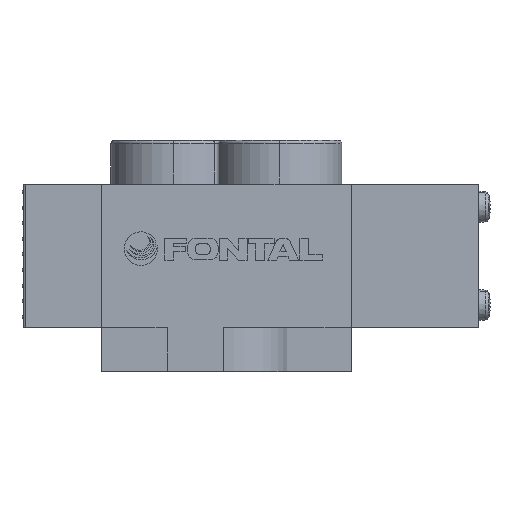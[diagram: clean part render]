
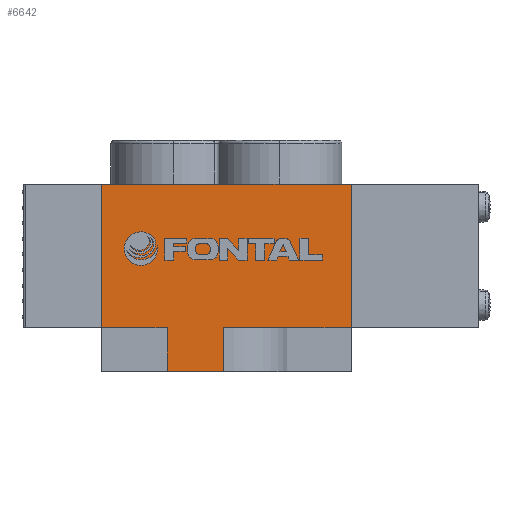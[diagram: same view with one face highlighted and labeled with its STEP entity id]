
A CAD part, top view. The second image highlights one B-rep face of the part: STEP entity #6642.
In plain terms, the highlighted planar face has unit normal (0, 0, 1).
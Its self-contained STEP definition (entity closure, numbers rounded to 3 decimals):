
#104 = EDGE_CURVE ( 'NONE', #7619, #9183, #3789, .T. ) ;
#322 = DIRECTION ( 'NONE',  ( 0., 0., -1. ) ) ;
#336 = CARTESIAN_POINT ( 'NONE',  ( 20., 44.5, 13.5 ) ) ;
#616 = LINE ( 'NONE', #6953, #8206 ) ;
#773 = VERTEX_POINT ( 'NONE', #336 ) ;
#849 = LINE ( 'NONE', #2001, #9233 ) ;
#1117 = VERTEX_POINT ( 'NONE', #10028 ) ;
#1436 = DIRECTION ( 'NONE',  ( -1., 0., 0. ) ) ;
#1513 = EDGE_CURVE ( 'NONE', #773, #6432, #9739, .T. ) ;
#1641 = EDGE_CURVE ( 'NONE', #9183, #3889, #6584, .T. ) ;
#1679 = DIRECTION ( 'NONE',  ( -1., 0., 0. ) ) ;
#1894 = ORIENTED_EDGE ( 'NONE', *, *, #1513, .T. ) ;
#1924 = AXIS2_PLACEMENT_3D ( 'NONE', #9530, #322, #7805 ) ;
#2001 = CARTESIAN_POINT ( 'NONE',  ( 20., 29.5, 13.5 ) ) ;
#2229 = VERTEX_POINT ( 'NONE', #10238 ) ;
#2471 = ORIENTED_EDGE ( 'NONE', *, *, #8188, .F. ) ;
#2559 = CARTESIAN_POINT ( 'NONE',  ( -20., 44.5, 13.5 ) ) ;
#2700 = DIRECTION ( 'NONE',  ( 0., 1., 0. ) ) ;
#2808 = PLANE ( 'NONE',  #1924 ) ;
#3192 = DIRECTION ( 'NONE',  ( 0., -1., 0. ) ) ;
#3515 = VECTOR ( 'NONE', #7261, 1000. ) ;
#3789 = LINE ( 'NONE', #5656, #6329 ) ;
#3830 = DIRECTION ( 'NONE',  ( 1., 0., 0. ) ) ;
#3889 = VERTEX_POINT ( 'NONE', #6958 ) ;
#4546 = LINE ( 'NONE', #10758, #5873 ) ;
#4644 = CARTESIAN_POINT ( 'NONE',  ( -0.5, 18., 13.5 ) ) ;
#4791 = VERTEX_POINT ( 'NONE', #5279 ) ;
#4817 = CARTESIAN_POINT ( 'NONE',  ( -0.5, 14.5, 13.5 ) ) ;
#5279 = CARTESIAN_POINT ( 'NONE',  ( -9.5, 21.5, 13.5 ) ) ;
#5393 = ORIENTED_EDGE ( 'NONE', *, *, #1641, .T. ) ;
#5656 = CARTESIAN_POINT ( 'NONE',  ( 0., 14.5, 13.5 ) ) ;
#5873 = VECTOR ( 'NONE', #1436, 1000. ) ;
#6046 = VECTOR ( 'NONE', #1679, 1000. ) ;
#6165 = DIRECTION ( 'NONE',  ( 0., 1., 0. ) ) ;
#6235 = EDGE_CURVE ( 'NONE', #1117, #3889, #4546, .T. ) ;
#6329 = VECTOR ( 'NONE', #3830, 1000. ) ;
#6391 = ORIENTED_EDGE ( 'NONE', *, *, #10324, .T. ) ;
#6432 = VERTEX_POINT ( 'NONE', #2559 ) ;
#6451 = ORIENTED_EDGE ( 'NONE', *, *, #7935, .F. ) ;
#6584 = LINE ( 'NONE', #4644, #3515 ) ;
#6642 = ADVANCED_FACE ( 'NONE', ( #7444 ), #2808, .F. ) ;
#6887 = EDGE_LOOP ( 'NONE', ( #2471, #7819, #5393, #10420, #8752, #1894, #6391, #6451 ) ) ;
#6953 = CARTESIAN_POINT ( 'NONE',  ( -9.5, 29.5, 13.5 ) ) ;
#6958 = CARTESIAN_POINT ( 'NONE',  ( -0.5, 21.5, 13.5 ) ) ;
#7261 = DIRECTION ( 'NONE',  ( 0., 1., 0. ) ) ;
#7425 = DIRECTION ( 'NONE',  ( -1., 0., 0. ) ) ;
#7444 = FACE_OUTER_BOUND ( 'NONE', #6887, .T. ) ;
#7540 = VECTOR ( 'NONE', #3192, 1000. ) ;
#7619 = VERTEX_POINT ( 'NONE', #10129 ) ;
#7805 = DIRECTION ( 'NONE',  ( -1., 0., 0. ) ) ;
#7819 = ORIENTED_EDGE ( 'NONE', *, *, #104, .T. ) ;
#7909 = LINE ( 'NONE', #9128, #7540 ) ;
#7935 = EDGE_CURVE ( 'NONE', #4791, #2229, #10712, .T. ) ;
#8125 = CARTESIAN_POINT ( 'NONE',  ( 0., 44.5, 13.5 ) ) ;
#8188 = EDGE_CURVE ( 'NONE', #7619, #4791, #616, .T. ) ;
#8206 = VECTOR ( 'NONE', #2700, 1000. ) ;
#8752 = ORIENTED_EDGE ( 'NONE', *, *, #8937, .T. ) ;
#8937 = EDGE_CURVE ( 'NONE', #1117, #773, #849, .T. ) ;
#9128 = CARTESIAN_POINT ( 'NONE',  ( -20., 29.5, 13.5 ) ) ;
#9183 = VERTEX_POINT ( 'NONE', #4817 ) ;
#9233 = VECTOR ( 'NONE', #6165, 1000. ) ;
#9530 = CARTESIAN_POINT ( 'NONE',  ( 20., 14.5, 13.5 ) ) ;
#9739 = LINE ( 'NONE', #8125, #6046 ) ;
#10028 = CARTESIAN_POINT ( 'NONE',  ( 20., 21.5, 13.5 ) ) ;
#10129 = CARTESIAN_POINT ( 'NONE',  ( -9.5, 14.5, 13.5 ) ) ;
#10238 = CARTESIAN_POINT ( 'NONE',  ( -20., 21.5, 13.5 ) ) ;
#10324 = EDGE_CURVE ( 'NONE', #6432, #2229, #7909, .T. ) ;
#10420 = ORIENTED_EDGE ( 'NONE', *, *, #6235, .F. ) ;
#10439 = VECTOR ( 'NONE', #7425, 1000. ) ;
#10712 = LINE ( 'NONE', #10830, #10439 ) ;
#10758 = CARTESIAN_POINT ( 'NONE',  ( 0., 21.5, 13.5 ) ) ;
#10830 = CARTESIAN_POINT ( 'NONE',  ( 0., 21.5, 13.5 ) ) ;
